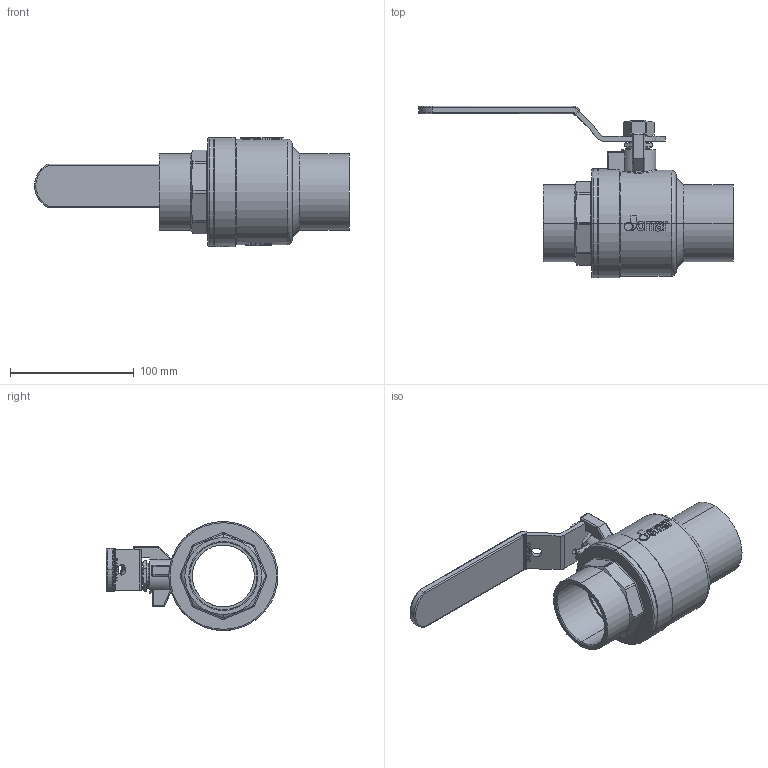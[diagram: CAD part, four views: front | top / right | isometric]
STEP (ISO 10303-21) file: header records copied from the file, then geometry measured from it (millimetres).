
FILE_DESCRIPTION (( 'STEP AP203' ), '1' );
FILE_NAME ('ABL718-無掛鎖-2''''JOMAR 球閥體組合-CxC-無插溝-2025.STEP', '2025-06-25T07:11:47', ( '' ), ( '' ), 'SwSTEP 2.0', 'SolidWorks 2018', '' );
FILE_SCHEMA (( 'CONFIG_CONTROL_DESIGN' ));
Length unit declared in the file: millimetre
Products named in the file (13): TBL269; EBL208B; GBL218; RBL267; NBL268; ABL718-無掛鎖-2''''JOMAR 球閥體組合-CxC-無插溝-2025; EBL208C; DN40-DN50-CBL717-無掛鎖把手組合-白色膠套 S-200CSSG; DN50-CBL238白色膠套-S-200CSSG; BBL718-2''''JOMAR球閥體-CxC-無鉛-端面無插溝; BBL718A-2''''JOMAR球閥-CxC帽蓋-無鉛-端面無插溝; EBL308; CBL238
Assembly tree (13 placements, depth 3):
  ABL718-無掛鎖-2''''JOMAR 球閥體組合-CxC-無插溝-2025
    BBL718-2''''JOMAR球閥體-CxC-無鉛-端面無插溝
    EBL208C
    EBL208B
    RBL267
    GBL218
    DN40-DN50-CBL717-無掛鎖把手組合-白色膠套 S-200CSSG
      CBL238
      DN50-CBL238白色膠套-S-200CSSG
    BBL718A-2''''JOMAR球閥-CxC帽蓋-無鉛-端面無插溝
    EBL308  x2
    NBL268
    TBL269
Bounding box: 253.9 x 138.51 x 88 mm (x, y, z)
Volume: 347216.4 mm3; surface area: 167772.3 mm2
Topology: 12 solids, 12 shells, 2242 faces, 5994 edges, 3949 vertices
Faces by surface type: plane 1160, bspline 660, cylinder 304, cone 66, torus 38, sphere 14
Entity records: 116508 total; most frequent: CARTESIAN_POINT 64618, ORIENTED_EDGE 11912, DIRECTION 7917, EDGE_CURVE 5956, VERTEX_POINT 3929, LINE 3667, VECTOR 3667, EDGE_LOOP 2435
